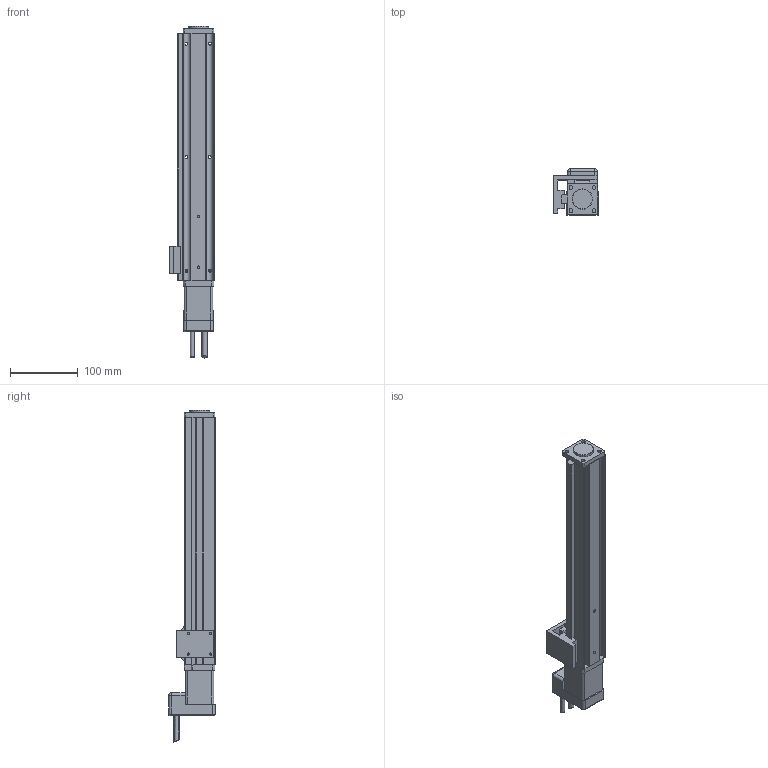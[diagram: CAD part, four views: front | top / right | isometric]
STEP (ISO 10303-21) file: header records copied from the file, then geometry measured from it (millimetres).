
FILE_DESCRIPTION(/* description */ ('Alibre Inc.'),/* implementation_level */ '2;1');
FILE_NAME(/* name */ 'export0',/* time_stamp */ '2011-08-02T11:24:27-04:00',/* author */ (''),/* organization */ (''),/* preprocessor_version */ 'ST-DEVELOPER v10',/* originating_system */ 'Alibre',/* authorisation */ '');
FILE_SCHEMA (('CONFIG_CONTROL_DESIGN'));
Length unit declared in the file: centimetre
Products named in the file (3): ID_1; ID_2
Bounding box: 66 x 68.8 x 489.76 mm (x, y, z)
Volume: 868497.8 mm3; surface area: 130208.5 mm2
Topology: 2 solids, 2 shells, 226 faces, 599 edges, 383 vertices
Faces by surface type: plane 132, cylinder 83, cone 5, torus 4, sphere 2
Full cylindrical faces by diameter (mm): 2.459 x3, 2.5 x1, 3 x2, 3.242 x12, 4 x2, 4.5 x6, 5 x1, 5.5 x5, 7.5 x1, 8 x6, 12 x1, 22 x1, 30 x1
Entity records: 6710 total; most frequent: CARTESIAN_POINT 1265, ORIENTED_EDGE 1054, DIRECTION 949, EDGE_CURVE 527, AXIS2_PLACEMENT_3D 377, VERTEX_POINT 364, FACE_BOUND 329, EDGE_LOOP 325
